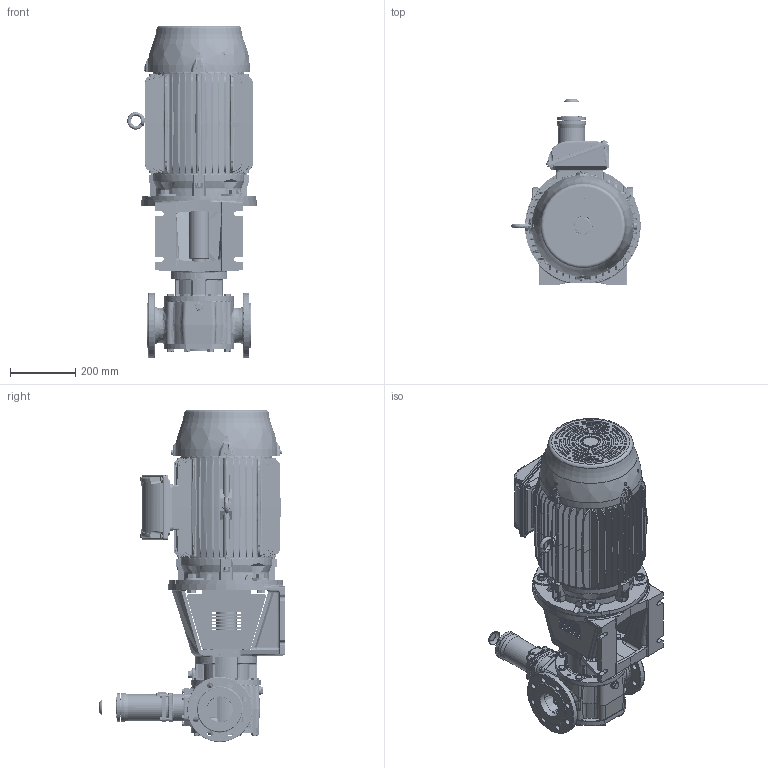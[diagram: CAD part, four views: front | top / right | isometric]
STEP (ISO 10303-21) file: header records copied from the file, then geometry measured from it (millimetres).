
FILE_DESCRIPTION(/* description */ (''),/* implementation_level */ '2;1');
FILE_NAME(/* name */ 'C:\V\JPP\Designs\GEAR PUMPS\PRODUCT ENGINEERING\EUROPE\TG BLOC\TG BLOC_58-80_G2_O_RV1-_160L-STEP.stp',/* time_stamp */ '2021-03-19T10:49:11+01:00',/* author */ ('A77THR'),/* organization */ (''),/* preprocessor_version */ 'ST-DEVELOPER v18.1',/* originating_system */ 'Autodesk Inventor 2020',/* authorisation */ '');
FILE_SCHEMA (('AUTOMOTIVE_DESIGN { 1 0 10303 214 3 1 1 }'));
Length unit declared in the file: millimetre
Products named in the file (1): TG BLOC_58-80_G2_O_RV1-_160L
Bounding box: 397.99 x 571 x 1019.4 mm (x, y, z)
Volume: 53055320.2 mm3; surface area: 2661475.9 mm2
Topology: 1 solids, 1 shells, 4875 faces, 12748 edges, 8067 vertices
Faces by surface type: plane 2020, cylinder 1117, bspline 918, cone 636, torus 134, sphere 50
Full cylindrical faces by diameter (mm): 4 x1, 4.5 x8, 4.917 x8, 5 x4, 5.459 x4, 6 x4, 6.3 x1, 6.647 x1, 6.8 x2, 7 x8, 7.323 x12, 7.5 x3, 8 x21, 8.7 x4, 9 x12, 9.4 x1, 10 x8, 10.106 x7, 10.2 x2, 11.053 x4, 11.4 x12, 11.445 x2, 11.6 x7, 12 x4, 12.5 x3, 13 x5, 13.157 x2, 13.2 x2, 14 x8, 15.011 x2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
Entity records: 193544 total; most frequent: CARTESIAN_POINT 75807, ORIENTED_EDGE 25312, DIRECTION 21903, EDGE_CURVE 12656, AXIS2_PLACEMENT_3D 8435, VERTEX_POINT 8063, EDGE_LOOP 5315, LINE 5033
